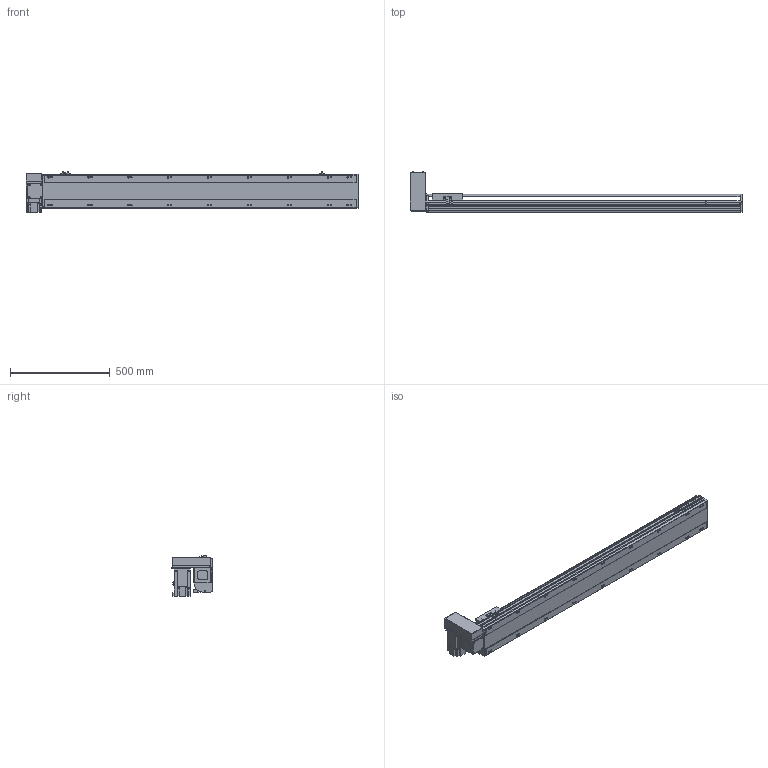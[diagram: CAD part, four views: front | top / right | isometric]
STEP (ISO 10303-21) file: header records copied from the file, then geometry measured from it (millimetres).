
FILE_DESCRIPTION( ( 'STEP AP214' ), '1' );
FILE_NAME( 'x:/temp/worker_5/temp/exporttempdir_3988_126_1xHBK/format_0/PBS170-P40-S1300-RU-T75-C1-N(0).stp', '2022-06-08T05:58:29', ( 'License CC BY-ND 4.0' ), ( 'CADENAS' ), ' ', 'PARTsolutions', ' ' );
FILE_SCHEMA( ( 'AUTOMOTIVE_DESIGN { 1 0 10303 214 1 1 1 1 }' ) );
Length unit declared in the file: millimetre
Products named in the file (7): PBS170-P40-S1300-RU-T75-C1-N(0); _PBS170-S1300()_body; _PBS170T-RU_motors; _T75-p1; _PBS170_sliser; _PBS170_plant; _PBS170_sensor
Assembly tree (8 placements, depth 2):
  PBS170-P40-S1300-RU-T75-C1-N(0)
    _PBS170-S1300()_body
    _PBS170T-RU_motors
    _T75-p1
    _PBS170_sliser
    _PBS170_plant
    _PBS170_sensor  x3
Bounding box: 1663 x 206 x 205.3 mm (x, y, z)
Volume: 13126933.6 mm3; surface area: 1698494 mm2
Topology: 8 solids, 8 shells, 1098 faces, 2915 edges, 1900 vertices
Faces by surface type: plane 693, cylinder 347, cone 48, sphere 8, torus 2
Full cylindrical faces by diameter (mm): 3.242 x4, 4 x2, 4.4 x4, 4.5 x6, 4.917 x4, 6 x9, 6.647 x26, 7 x2, 7.5 x4, 8 x8, 8.5 x18, 10 x4, 10.5 x18, 11 x2, 30 x2, 40 x1, 70 x1
Entity records: 40382 total; most frequent: CARTESIAN_POINT 6389, DIRECTION 5370, ORIENTED_EDGE 5088, EDGE_CURVE 2544, AXIS2_PLACEMENT_3D 1867, VERTEX_POINT 1754, LINE 1636, VECTOR 1636
